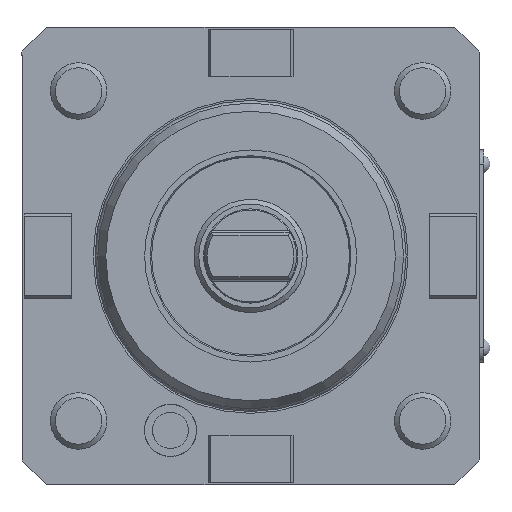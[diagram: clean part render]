
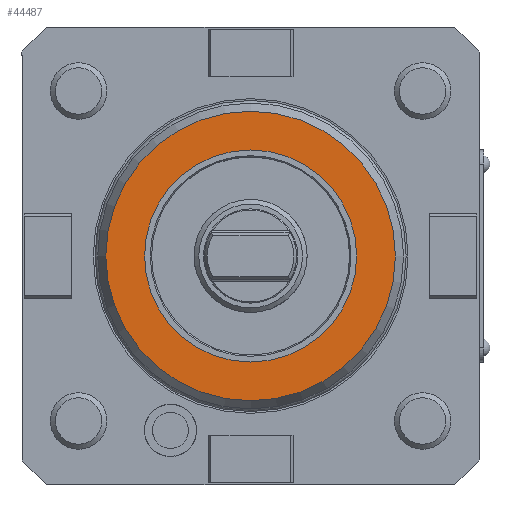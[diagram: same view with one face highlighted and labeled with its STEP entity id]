
A CAD part, left-side view. The second image highlights one B-rep face of the part: STEP entity #44487.
In plain terms, the highlighted planar face has unit normal (-1, 0, 0).
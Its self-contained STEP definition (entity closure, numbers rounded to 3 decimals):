
#20389=PLANE('',#43375);
#21146=ORIENTED_EDGE('',*,*,#25726,.F.);
#21147=ORIENTED_EDGE('',*,*,#25727,.T.);
#24098=CIRCLE('',#43374,30.718);
#24099=CIRCLE('',#43376,22.5);
#24607=VERTEX_POINT('',#33116);
#24608=VERTEX_POINT('',#33119);
#25726=EDGE_CURVE('',#24607,#24607,#24098,.T.);
#25727=EDGE_CURVE('',#24608,#24608,#24099,.T.);
#27237=EDGE_LOOP('',(#21146));
#27238=EDGE_LOOP('',(#21147));
#28174=FACE_BOUND('',#27237,.T.);
#28175=FACE_BOUND('',#27238,.T.);
#29280=DIRECTION('',(1.,0.,0.));
#29281=DIRECTION('',(0.,0.,30.718));
#29282=DIRECTION('',(-1.,0.,0.));
#29283=DIRECTION('',(0.,1.,0.));
#29284=DIRECTION('',(1.,0.,0.));
#29285=DIRECTION('',(0.,0.,22.5));
#33116=CARTESIAN_POINT('',(-32.,0.,30.718));
#33117=CARTESIAN_POINT('',(-32.,0.,0.));
#33118=CARTESIAN_POINT('',(-32.,0.,30.718));
#33119=CARTESIAN_POINT('',(-32.,0.,22.5));
#33120=CARTESIAN_POINT('',(-32.,0.,0.));
#43374=AXIS2_PLACEMENT_3D('',#33117,#29280,#29281);
#43375=AXIS2_PLACEMENT_3D('',#33118,#29282,#29283);
#43376=AXIS2_PLACEMENT_3D('',#33120,#29284,#29285);
#44487=ADVANCED_FACE('',(#28174,#28175),#20389,.T.);
